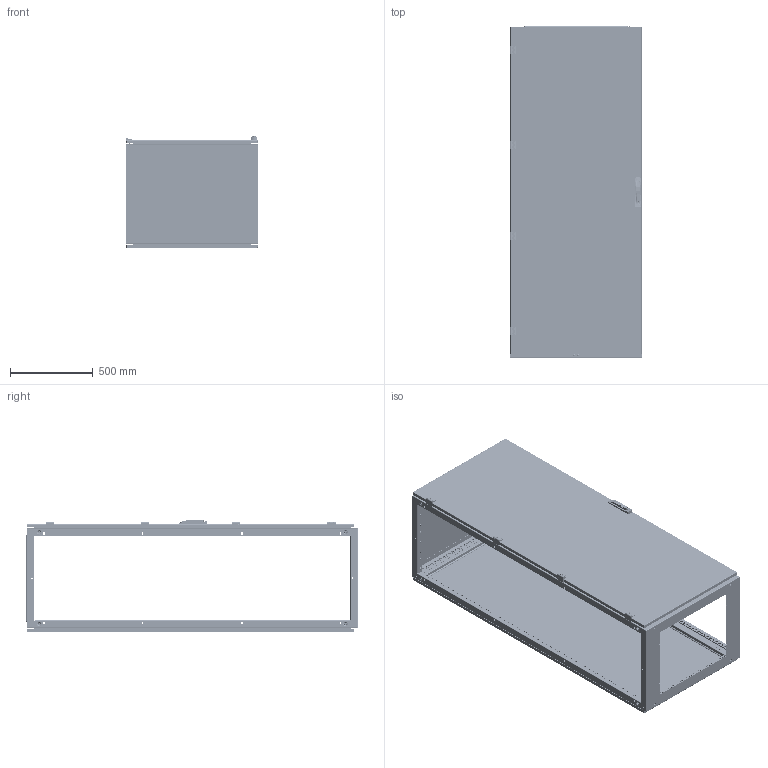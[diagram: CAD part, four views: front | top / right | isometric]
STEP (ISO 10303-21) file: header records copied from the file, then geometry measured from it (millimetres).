
FILE_DESCRIPTION (( 'STEP AP214' ), '1' );
FILE_NAME ('QA200806.step', '2011-08-10T08:41:03', ( 'Radek Veselý' ), ( 'Siemens and Partners' ), 'SwSTEP 2.0', 'SolidWorks 2006303', '' );
FILE_SCHEMA (( 'AUTOMOTIVE_DESIGN' ));
Length unit declared in the file: millimetre
Products named in the file (1): QA200806
Bounding box: 800 x 2004.5 x 676 mm (x, y, z)
Volume: 11148643.5 mm3; surface area: 13032410.6 mm2
Topology: 94 solids, 94 shells, 7063 faces, 19284 edges, 12408 vertices
Faces by surface type: plane 3800, cylinder 2699, cone 292, torus 164, sphere 60, bspline 48
Entity records: 308632 total; most frequent: CARTESIAN_POINT 41206, DIRECTION 39032, ORIENTED_EDGE 38176, EDGE_CURVE 19088, AXIS2_PLACEMENT_3D 13125, VECTOR 12782, LINE 12782, VERTEX_POINT 12392
